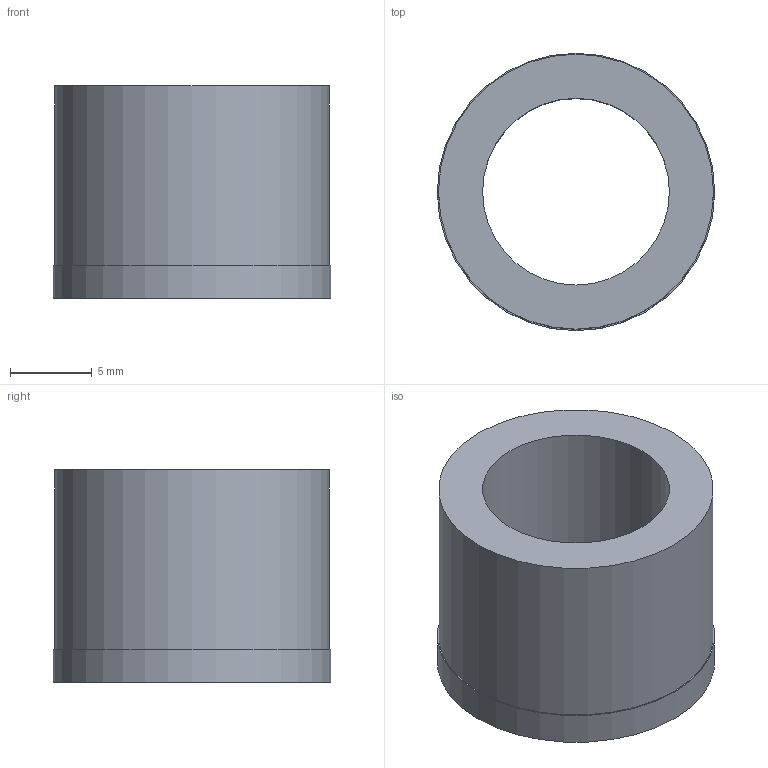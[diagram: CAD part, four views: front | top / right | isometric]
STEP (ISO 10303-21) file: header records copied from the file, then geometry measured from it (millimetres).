
FILE_DESCRIPTION (( 'STEP AP214' ), '1' );
FILE_NAME ('JF-20403-0007.STEP', '2018-04-18T15:09:22', ( '' ), ( '' ), 'SwSTEP 2.0', 'SolidWorks 2017', '' );
FILE_SCHEMA (( 'AUTOMOTIVE_DESIGN' ));
Length unit declared in the file: millimetre
Products named in the file (1): JF-20403-0007
Bounding box: 17 x 17 x 13 mm (x, y, z)
Volume: 1570.5 mm3; surface area: 1404.9 mm2
Topology: 1 solids, 1 shells, 9 faces, 14 edges, 9 vertices
Faces by surface type: plane 4, cylinder 3, cone 2
Full cylindrical faces by diameter (mm): 11.445 x1, 16.854 x1, 17 x1
Entity records: 222 total; most frequent: DIRECTION 38, CARTESIAN_POINT 28, AXIS2_PLACEMENT_3D 19, ORIENTED_EDGE 18, EDGE_LOOP 18, FACE_OUTER_BOUND 12, VERTEX_POINT 9, ADVANCED_FACE 9
